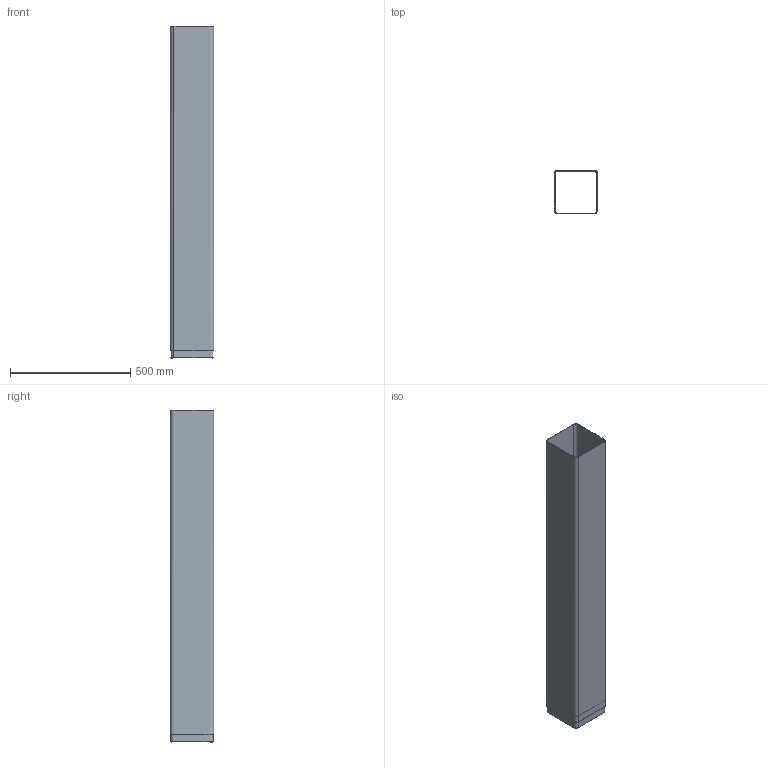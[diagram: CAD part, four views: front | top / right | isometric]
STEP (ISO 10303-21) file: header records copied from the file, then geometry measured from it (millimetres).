
FILE_DESCRIPTION(/* description */ (''),/* implementation_level */ '2;1');
FILE_NAME(/* name */ 'Труба 1',/* time_stamp */ '2025-12-09T13:27:14+03:00',/* author */ (''),/* organization */ (''),/* preprocessor_version */ 'ST-DEVELOPER v16.5',/* originating_system */ 'Rhino 7.13',/* authorisation */ '');
FILE_SCHEMA (('CONFIG_CONTROL_DESIGN','CONFIG_CONTROL_DESIGN'));
Length unit declared in the file: millimetre
Products named in the file (1): Document
Bounding box: 180 x 180 x 1380 mm (x, y, z)
Volume: 1190719.9 mm3; surface area: 1956413.7 mm2
Topology: 2 solids, 2 shells, 20 faces, 40 edges, 20 vertices
Faces by surface type: bspline 20
Entity records: 1136 total; most frequent: CARTESIAN_POINT 834, ORIENTED_EDGE 80, EDGE_CURVE 40, ADVANCED_FACE 20, FACE_OUTER_BOUND 20, EDGE_LOOP 20, VERTEX_POINT 20, B_SPLINE_CURVE_WITH_KNOTS 8
